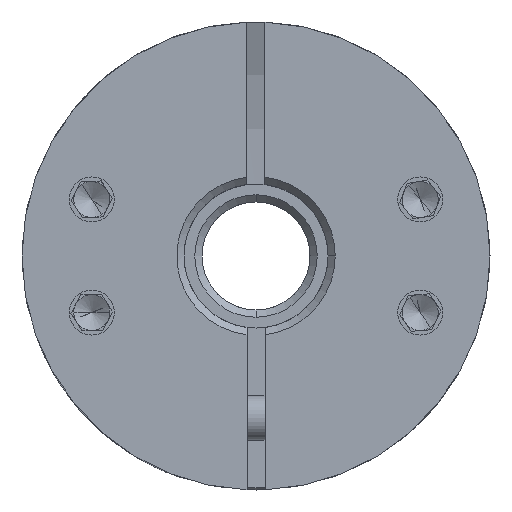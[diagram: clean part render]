
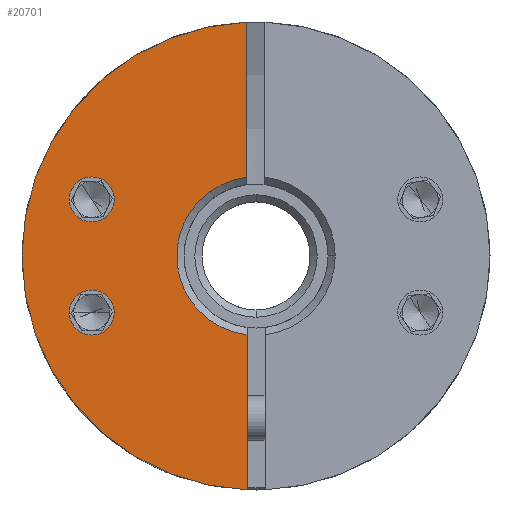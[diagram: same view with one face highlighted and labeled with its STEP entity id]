
A CAD part, front view. The second image highlights one B-rep face of the part: STEP entity #20701.
In plain terms, the highlighted planar face has unit normal (0, -1, 0).
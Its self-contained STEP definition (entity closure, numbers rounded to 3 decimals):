
#62 = EDGE_LOOP ( 'NONE', ( #9794, #22121, #3751, #12651, #12104 ) ) ;
#275 = VERTEX_POINT ( 'NONE', #3434 ) ;
#574 = FACE_BOUND ( 'NONE', #6629, .T. ) ;
#579 = DIRECTION ( 'NONE',  ( 0., -1., 0. ) ) ;
#796 = AXIS2_PLACEMENT_3D ( 'NONE', #22699, #11787, #20807 ) ;
#1072 = DIRECTION ( 'NONE',  ( 0., 1., 0. ) ) ;
#1852 = CIRCLE ( 'NONE', #17939, 4.4 ) ;
#1938 = DIRECTION ( 'NONE',  ( 0., 1., 0. ) ) ;
#3157 = EDGE_CURVE ( 'NONE', #19685, #275, #9585, .T. ) ;
#3347 = DIRECTION ( 'NONE',  ( 0., -1., 0. ) ) ;
#3358 = CARTESIAN_POINT ( 'NONE',  ( -6.119, -26.289, -3.142 ) ) ;
#3434 = CARTESIAN_POINT ( 'NONE',  ( -8.619, -26.289, -3.142 ) ) ;
#3474 = AXIS2_PLACEMENT_3D ( 'NONE', #8533, #4983, #12200 ) ;
#3524 = EDGE_CURVE ( 'NONE', #7657, #10989, #18255, .T. ) ;
#3751 = ORIENTED_EDGE ( 'NONE', *, *, #12012, .F. ) ;
#3789 = DIRECTION ( 'NONE',  ( 1., 0., 0. ) ) ;
#3840 = EDGE_CURVE ( 'NONE', #3968, #7657, #10397, .T. ) ;
#3968 = VERTEX_POINT ( 'NONE', #12459 ) ;
#4184 = VERTEX_POINT ( 'NONE', #13388 ) ;
#4222 = CARTESIAN_POINT ( 'NONE',  ( 1.755, -26.289, 0. ) ) ;
#4374 = EDGE_CURVE ( 'NONE', #17496, #16047, #10113, .T. ) ;
#4408 = CARTESIAN_POINT ( 'NONE',  ( -8.619, -26.289, 3.142 ) ) ;
#4983 = DIRECTION ( 'NONE',  ( 0., 1., 0. ) ) ;
#5051 = CIRCLE ( 'NONE', #18035, 1.25 ) ;
#5543 = AXIS2_PLACEMENT_3D ( 'NONE', #4222, #579, #20168 ) ;
#6629 = EDGE_LOOP ( 'NONE', ( #9505, #21810 ) ) ;
#6885 = DIRECTION ( 'NONE',  ( 0., 1., 0. ) ) ;
#7657 = VERTEX_POINT ( 'NONE', #20427 ) ;
#7690 = LINE ( 'NONE', #16180, #21638 ) ;
#7744 = CIRCLE ( 'NONE', #3474, 1.25 ) ;
#7960 = CARTESIAN_POINT ( 'NONE',  ( 1.255, -26.289, -12.99 ) ) ;
#8340 = EDGE_LOOP ( 'NONE', ( #11628, #11504 ) ) ;
#8346 = CARTESIAN_POINT ( 'NONE',  ( -6.119, -26.289, 3.142 ) ) ;
#8470 = DIRECTION ( 'NONE',  ( 1., 0., 0. ) ) ;
#8533 = CARTESIAN_POINT ( 'NONE',  ( -7.369, -26.289, 3.142 ) ) ;
#8657 = DIRECTION ( 'NONE',  ( 1., 0., 0. ) ) ;
#9127 = DIRECTION ( 'NONE',  ( 0., 0., -1. ) ) ;
#9505 = ORIENTED_EDGE ( 'NONE', *, *, #4374, .T. ) ;
#9585 = CIRCLE ( 'NONE', #15094, 1.25 ) ;
#9794 = ORIENTED_EDGE ( 'NONE', *, *, #12542, .F. ) ;
#10001 = CARTESIAN_POINT ( 'NONE',  ( -7.369, -26.289, -3.142 ) ) ;
#10113 = CIRCLE ( 'NONE', #12748, 1.25 ) ;
#10165 = EDGE_CURVE ( 'NONE', #275, #19685, #5051, .T. ) ;
#10397 = CIRCLE ( 'NONE', #18548, 13. ) ;
#10989 = VERTEX_POINT ( 'NONE', #7960 ) ;
#11337 = DIRECTION ( 'NONE',  ( 0., 0., -1. ) ) ;
#11504 = ORIENTED_EDGE ( 'NONE', *, *, #3157, .T. ) ;
#11628 = ORIENTED_EDGE ( 'NONE', *, *, #10165, .T. ) ;
#11787 = DIRECTION ( 'NONE',  ( 0., -1., 0. ) ) ;
#12012 = EDGE_CURVE ( 'NONE', #3968, #16991, #19949, .T. ) ;
#12104 = ORIENTED_EDGE ( 'NONE', *, *, #3524, .T. ) ;
#12200 = DIRECTION ( 'NONE',  ( 1., 0., 0. ) ) ;
#12391 = EDGE_CURVE ( 'NONE', #4184, #16991, #1852, .T. ) ;
#12459 = CARTESIAN_POINT ( 'NONE',  ( 1.255, -26.289, 12.99 ) ) ;
#12542 = EDGE_CURVE ( 'NONE', #4184, #10989, #7690, .T. ) ;
#12614 = CARTESIAN_POINT ( 'NONE',  ( -7.369, -26.289, 3.142 ) ) ;
#12651 = ORIENTED_EDGE ( 'NONE', *, *, #3840, .T. ) ;
#12748 = AXIS2_PLACEMENT_3D ( 'NONE', #12614, #1938, #3789 ) ;
#13388 = CARTESIAN_POINT ( 'NONE',  ( 1.255, -26.289, -4.371 ) ) ;
#15043 = FACE_BOUND ( 'NONE', #8340, .T. ) ;
#15094 = AXIS2_PLACEMENT_3D ( 'NONE', #20889, #6885, #8657 ) ;
#15223 = VECTOR ( 'NONE', #11337, 1000. ) ;
#15604 = FACE_OUTER_BOUND ( 'NONE', #62, .T. ) ;
#16024 = CARTESIAN_POINT ( 'NONE',  ( 1.755, -26.289, 0. ) ) ;
#16047 = VERTEX_POINT ( 'NONE', #8346 ) ;
#16180 = CARTESIAN_POINT ( 'NONE',  ( 1.255, -26.289, 5. ) ) ;
#16675 = CARTESIAN_POINT ( 'NONE',  ( 1.255, -26.289, 5. ) ) ;
#16991 = VERTEX_POINT ( 'NONE', #20750 ) ;
#17496 = VERTEX_POINT ( 'NONE', #4408 ) ;
#17939 = AXIS2_PLACEMENT_3D ( 'NONE', #16024, #21298, #23103 ) ;
#18035 = AXIS2_PLACEMENT_3D ( 'NONE', #10001, #1072, #20582 ) ;
#18255 = CIRCLE ( 'NONE', #5543, 13. ) ;
#18548 = AXIS2_PLACEMENT_3D ( 'NONE', #19076, #3347, #8470 ) ;
#19076 = CARTESIAN_POINT ( 'NONE',  ( 1.755, -26.289, 0. ) ) ;
#19685 = VERTEX_POINT ( 'NONE', #3358 ) ;
#19949 = LINE ( 'NONE', #16675, #15223 ) ;
#20168 = DIRECTION ( 'NONE',  ( 1., 0., 0. ) ) ;
#20427 = CARTESIAN_POINT ( 'NONE',  ( -11.245, -26.289, 0. ) ) ;
#20582 = DIRECTION ( 'NONE',  ( 1., 0., 0. ) ) ;
#20701 = ADVANCED_FACE ( 'NONE', ( #15604, #574, #15043 ), #22386, .T. ) ;
#20750 = CARTESIAN_POINT ( 'NONE',  ( 1.255, -26.289, 4.371 ) ) ;
#20807 = DIRECTION ( 'NONE',  ( 1., 0., 0. ) ) ;
#20889 = CARTESIAN_POINT ( 'NONE',  ( -7.369, -26.289, -3.142 ) ) ;
#21298 = DIRECTION ( 'NONE',  ( 0., 1., 0. ) ) ;
#21325 = EDGE_CURVE ( 'NONE', #16047, #17496, #7744, .T. ) ;
#21638 = VECTOR ( 'NONE', #9127, 1000. ) ;
#21810 = ORIENTED_EDGE ( 'NONE', *, *, #21325, .T. ) ;
#22121 = ORIENTED_EDGE ( 'NONE', *, *, #12391, .T. ) ;
#22386 = PLANE ( 'NONE',  #796 ) ;
#22699 = CARTESIAN_POINT ( 'NONE',  ( 1.755, -26.289, 0. ) ) ;
#23103 = DIRECTION ( 'NONE',  ( 1., 0., 0. ) ) ;
